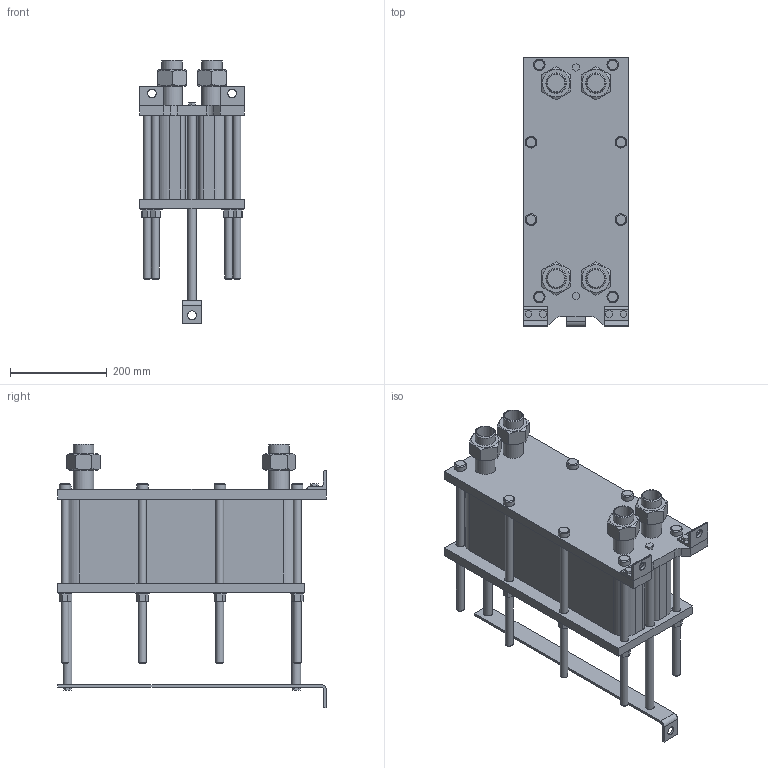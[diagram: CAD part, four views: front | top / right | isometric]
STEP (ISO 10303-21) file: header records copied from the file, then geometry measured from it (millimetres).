
FILE_DESCRIPTION(/* description */ (''),/* implementation_level */ '2;1');
FILE_NAME(/* name */ 'C:\Users\zhuro\Desktop\ENCO\TO\ЭН-004\ЭН-0,5-004-56-1.stp',/* time_stamp */ '2022-06-06T10:47:38+03:00',/* author */ ('zhuro'),/* organization */ (''),/* preprocessor_version */ 'ST-DEVELOPER v18.1',/* originating_system */ 'Autodesk Inventor 2022',/* authorisation */ '');
FILE_SCHEMA (('AUTOMOTIVE_DESIGN { 1 0 10303 214 3 1 1 }'));
Length unit declared in the file: millimetre
Products named in the file (1): ЭН-0,5-004-56-1
Bounding box: 216 x 555 x 545.8 mm (x, y, z)
Volume: 18619399.3 mm3; surface area: 1334814.4 mm2
Topology: 40 solids, 40 shells, 403 faces, 865 edges, 574 vertices
Faces by surface type: plane 272, cylinder 103, cone 28
Full cylindrical faces by diameter (mm): 10 x4, 16 x16, 18 x29, 20 x2, 24 x8, 28 x8, 36.3 x5, 42.3 x9
Entity records: 11137 total; most frequent: CARTESIAN_POINT 1939, DIRECTION 1879, ORIENTED_EDGE 1730, EDGE_CURVE 865, AXIS2_PLACEMENT_3D 658, VERTEX_POINT 574, LINE 563, VECTOR 563
